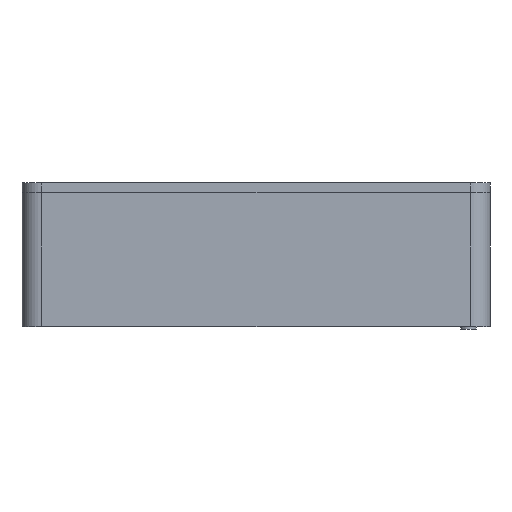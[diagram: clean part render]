
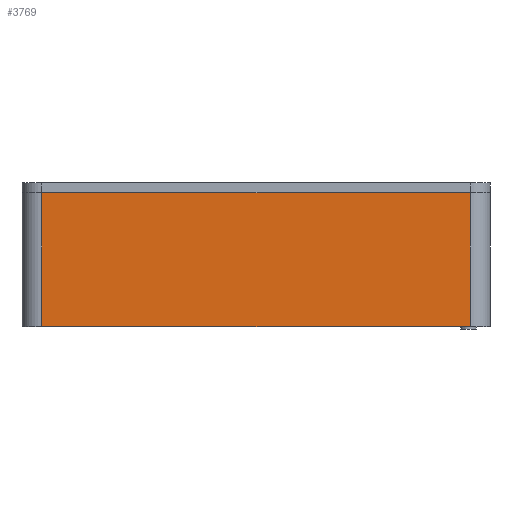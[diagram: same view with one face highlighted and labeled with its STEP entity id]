
A CAD part, left-side view. The second image highlights one B-rep face of the part: STEP entity #3769.
In plain terms, the highlighted planar face has unit normal (-1, 0, 0).
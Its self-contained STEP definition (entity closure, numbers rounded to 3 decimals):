
#106 = PLANE('',#107);
#107 = AXIS2_PLACEMENT_3D('',#108,#109,#110);
#108 = CARTESIAN_POINT('',(97.1,-71.6,41.));
#109 = DIRECTION('',(-0.,-0.,1.));
#110 = DIRECTION('',(1.,0.,0.));
#162 = PLANE('',#163);
#163 = AXIS2_PLACEMENT_3D('',#164,#165,#166);
#164 = CARTESIAN_POINT('',(97.1,-71.6,0.));
#165 = DIRECTION('',(0.,0.,1.));
#166 = DIRECTION('',(1.,0.,0.));
#385 = VERTEX_POINT('',#386);
#386 = CARTESIAN_POINT('',(-97.1,-65.6,41.));
#401 = CYLINDRICAL_SURFACE('',#402,6.);
#402 = AXIS2_PLACEMENT_3D('',#403,#404,#405);
#403 = CARTESIAN_POINT('',(-91.1,-65.6,0.));
#404 = DIRECTION('',(-0.,-0.,1.));
#405 = DIRECTION('',(-1.,-0.,-0.));
#413 = EDGE_CURVE('',#385,#414,#416,.T.);
#414 = VERTEX_POINT('',#415);
#415 = CARTESIAN_POINT('',(-97.1,65.6,41.));
#416 = SURFACE_CURVE('',#417,(#421,#428),.PCURVE_S1.);
#417 = LINE('',#418,#419);
#418 = CARTESIAN_POINT('',(-97.1,-71.6,41.));
#419 = VECTOR('',#420,1.);
#420 = DIRECTION('',(-0.,1.,0.));
#421 = PCURVE('',#106,#422);
#422 = DEFINITIONAL_REPRESENTATION('',(#423),#427);
#423 = LINE('',#424,#425);
#424 = CARTESIAN_POINT('',(-194.2,0.));
#425 = VECTOR('',#426,1.);
#426 = DIRECTION('',(0.,1.));
#427 = ( GEOMETRIC_REPRESENTATION_CONTEXT(2) 
PARAMETRIC_REPRESENTATION_CONTEXT() REPRESENTATION_CONTEXT('2D SPACE',''
  ) );
#428 = PCURVE('',#429,#434);
#429 = PLANE('',#430);
#430 = AXIS2_PLACEMENT_3D('',#431,#432,#433);
#431 = CARTESIAN_POINT('',(-97.1,-71.6,0.));
#432 = DIRECTION('',(-1.,-0.,0.));
#433 = DIRECTION('',(0.,0.,-1.));
#434 = DEFINITIONAL_REPRESENTATION('',(#435),#439);
#435 = LINE('',#436,#437);
#436 = CARTESIAN_POINT('',(-41.,-0.));
#437 = VECTOR('',#438,1.);
#438 = DIRECTION('',(-0.,-1.));
#439 = ( GEOMETRIC_REPRESENTATION_CONTEXT(2) 
PARAMETRIC_REPRESENTATION_CONTEXT() REPRESENTATION_CONTEXT('2D SPACE',''
  ) );
#462 = CYLINDRICAL_SURFACE('',#463,6.);
#463 = AXIS2_PLACEMENT_3D('',#464,#465,#466);
#464 = CARTESIAN_POINT('',(-91.1,65.6,0.));
#465 = DIRECTION('',(-0.,-0.,1.));
#466 = DIRECTION('',(-1.,-0.,-0.));
#1027 = VERTEX_POINT('',#1028);
#1028 = CARTESIAN_POINT('',(-97.1,-65.6,0.));
#1050 = EDGE_CURVE('',#1027,#1051,#1053,.T.);
#1051 = VERTEX_POINT('',#1052);
#1052 = CARTESIAN_POINT('',(-97.1,65.6,0.));
#1053 = SURFACE_CURVE('',#1054,(#1058,#1065),.PCURVE_S1.);
#1054 = LINE('',#1055,#1056);
#1055 = CARTESIAN_POINT('',(-97.1,-71.6,0.));
#1056 = VECTOR('',#1057,1.);
#1057 = DIRECTION('',(-0.,1.,0.));
#1058 = PCURVE('',#162,#1059);
#1059 = DEFINITIONAL_REPRESENTATION('',(#1060),#1064);
#1060 = LINE('',#1061,#1062);
#1061 = CARTESIAN_POINT('',(-194.2,0.));
#1062 = VECTOR('',#1063,1.);
#1063 = DIRECTION('',(-0.,1.));
#1064 = ( GEOMETRIC_REPRESENTATION_CONTEXT(2) 
PARAMETRIC_REPRESENTATION_CONTEXT() REPRESENTATION_CONTEXT('2D SPACE',''
  ) );
#1065 = PCURVE('',#429,#1066);
#1066 = DEFINITIONAL_REPRESENTATION('',(#1067),#1071);
#1067 = LINE('',#1068,#1069);
#1068 = CARTESIAN_POINT('',(-0.,-0.));
#1069 = VECTOR('',#1070,1.);
#1070 = DIRECTION('',(-0.,-1.));
#1071 = ( GEOMETRIC_REPRESENTATION_CONTEXT(2) 
PARAMETRIC_REPRESENTATION_CONTEXT() REPRESENTATION_CONTEXT('2D SPACE',''
  ) );
#3722 = EDGE_CURVE('',#1027,#385,#3723,.T.);
#3723 = SURFACE_CURVE('',#3724,(#3728,#3735),.PCURVE_S1.);
#3724 = LINE('',#3725,#3726);
#3725 = CARTESIAN_POINT('',(-97.1,-65.6,0.));
#3726 = VECTOR('',#3727,1.);
#3727 = DIRECTION('',(-0.,-0.,1.));
#3728 = PCURVE('',#401,#3729);
#3729 = DEFINITIONAL_REPRESENTATION('',(#3730),#3734);
#3730 = LINE('',#3731,#3732);
#3731 = CARTESIAN_POINT('',(0.,0.));
#3732 = VECTOR('',#3733,1.);
#3733 = DIRECTION('',(0.,1.));
#3734 = ( GEOMETRIC_REPRESENTATION_CONTEXT(2) 
PARAMETRIC_REPRESENTATION_CONTEXT() REPRESENTATION_CONTEXT('2D SPACE',''
  ) );
#3735 = PCURVE('',#429,#3736);
#3736 = DEFINITIONAL_REPRESENTATION('',(#3737),#3741);
#3737 = LINE('',#3738,#3739);
#3738 = CARTESIAN_POINT('',(-0.,-6.));
#3739 = VECTOR('',#3740,1.);
#3740 = DIRECTION('',(-1.,-0.));
#3741 = ( GEOMETRIC_REPRESENTATION_CONTEXT(2) 
PARAMETRIC_REPRESENTATION_CONTEXT() REPRESENTATION_CONTEXT('2D SPACE',''
  ) );
#3749 = EDGE_CURVE('',#1051,#414,#3750,.T.);
#3750 = SURFACE_CURVE('',#3751,(#3755,#3762),.PCURVE_S1.);
#3751 = LINE('',#3752,#3753);
#3752 = CARTESIAN_POINT('',(-97.1,65.6,0.));
#3753 = VECTOR('',#3754,1.);
#3754 = DIRECTION('',(-0.,-0.,1.));
#3755 = PCURVE('',#462,#3756);
#3756 = DEFINITIONAL_REPRESENTATION('',(#3757),#3761);
#3757 = LINE('',#3758,#3759);
#3758 = CARTESIAN_POINT('',(-0.,0.));
#3759 = VECTOR('',#3760,1.);
#3760 = DIRECTION('',(-0.,1.));
#3761 = ( GEOMETRIC_REPRESENTATION_CONTEXT(2) 
PARAMETRIC_REPRESENTATION_CONTEXT() REPRESENTATION_CONTEXT('2D SPACE',''
  ) );
#3762 = PCURVE('',#429,#3763);
#3763 = DEFINITIONAL_REPRESENTATION('',(#3764),#3768);
#3764 = LINE('',#3765,#3766);
#3765 = CARTESIAN_POINT('',(-0.,-137.2));
#3766 = VECTOR('',#3767,1.);
#3767 = DIRECTION('',(-1.,-0.));
#3768 = ( GEOMETRIC_REPRESENTATION_CONTEXT(2) 
PARAMETRIC_REPRESENTATION_CONTEXT() REPRESENTATION_CONTEXT('2D SPACE',''
  ) );
#3769 = ADVANCED_FACE('',(#3770),#429,.T.);
#3770 = FACE_BOUND('',#3771,.F.);
#3771 = EDGE_LOOP('',(#3772,#3773,#3774,#3775));
#3772 = ORIENTED_EDGE('',*,*,#413,.F.);
#3773 = ORIENTED_EDGE('',*,*,#3722,.F.);
#3774 = ORIENTED_EDGE('',*,*,#1050,.T.);
#3775 = ORIENTED_EDGE('',*,*,#3749,.T.);
